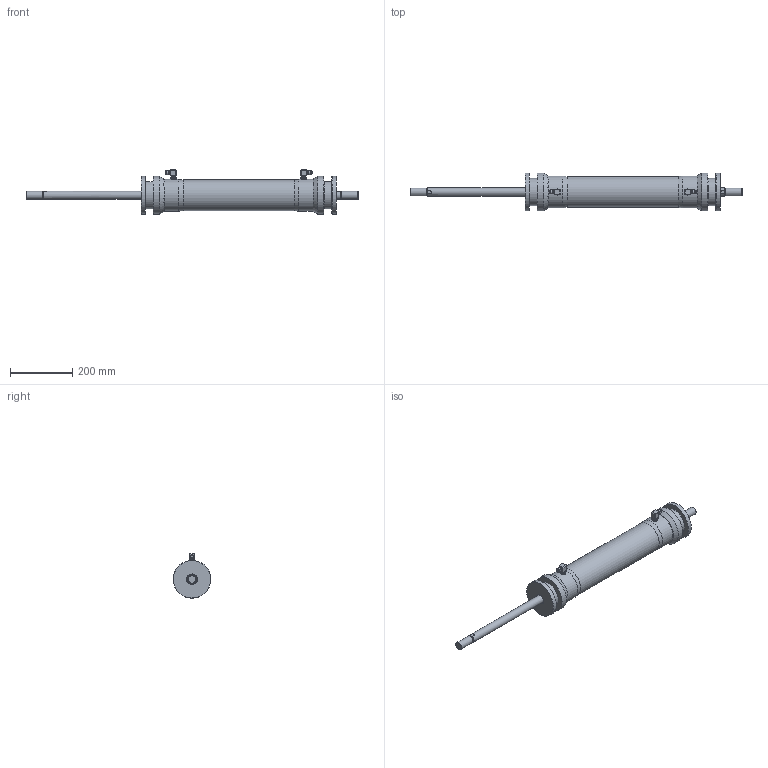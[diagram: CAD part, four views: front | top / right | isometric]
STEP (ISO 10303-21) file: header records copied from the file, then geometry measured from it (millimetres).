
FILE_DESCRIPTION(/* description */ (''),/* implementation_level */ '2;1');
FILE_NAME(/* name */ 'C:\STP.CR\TDA-71_Simplify_1 Rev1.stp',/* time_stamp */ '2021-11-02T11:40:03+00:00',/* author */ ('AL'),/* organization */ (''),/* preprocessor_version */ 'ST-DEVELOPER v18.1',/* originating_system */ 'Autodesk Inventor 2022',/* authorisation */ '');
FILE_SCHEMA (('AUTOMOTIVE_DESIGN { 1 0 10303 214 3 1 1 }'));
Length unit declared in the file: millimetre
Products named in the file (1): TDA-71_Simplify_1
Bounding box: 1067.8 x 121.2 x 142.5 mm (x, y, z)
Volume: 5371901.7 mm3; surface area: 307391.7 mm2
Topology: 1 solids, 1 shells, 177 faces, 365 edges, 222 vertices
Faces by surface type: plane 80, cylinder 43, cone 38, torus 16
Full cylindrical faces by diameter (mm): 11.157 x2, 11.67 x4, 12.157 x2, 12.67 x2, 12.77 x2, 13.157 x4, 18.3 x4, 22.949 x2, 25.349 x2, 26 x2, 28 x2, 30 x2, 34 x2, 34.6 x2, 88 x2, 99.2 x1, 102.2 x2, 121.2 x4
Entity records: 4937 total; most frequent: CARTESIAN_POINT 899, DIRECTION 851, ORIENTED_EDGE 730, EDGE_CURVE 365, AXIS2_PLACEMENT_3D 346, VERTEX_POINT 222, EDGE_LOOP 209, STYLED_ITEM 178
